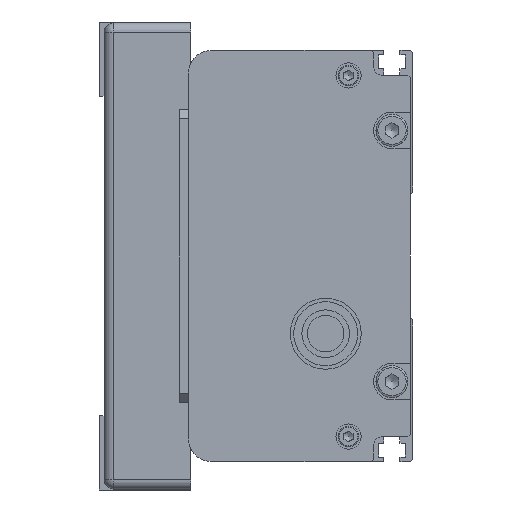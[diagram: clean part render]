
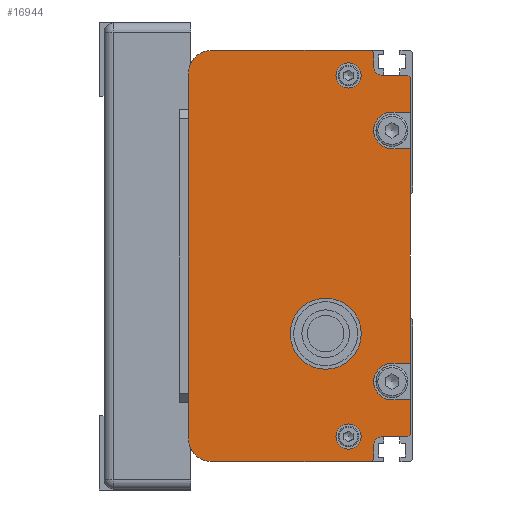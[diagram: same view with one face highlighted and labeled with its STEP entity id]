
A CAD part, left-side view. The second image highlights one B-rep face of the part: STEP entity #16944.
In plain terms, the highlighted planar face has unit normal (-1, 0, 0) as drawn and (0, 0, -1) by its records, which use the part's own axes.
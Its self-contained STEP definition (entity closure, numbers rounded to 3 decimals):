
#1076=FACE_BOUND('',#2476,.T.);
#1077=FACE_BOUND('',#2477,.T.);
#1078=FACE_BOUND('',#2478,.T.);
#1406=FACE_OUTER_BOUND('',#2475,.T.);
#2475=EDGE_LOOP('',(#11767,#11768,#11769,#11770,#11771,#11772,#11773,#11774,
#11775,#11776,#11777,#11778,#11779,#11780,#11781,#11782,#11783,#11784,#11785,
#11786,#11787,#11788,#11789,#11790));
#2476=EDGE_LOOP('',(#11791));
#2477=EDGE_LOOP('',(#11792));
#2478=EDGE_LOOP('',(#11793));
#3765=LINE('',#24545,#5263);
#3791=LINE('',#24612,#5289);
#3793=LINE('',#24617,#5291);
#3794=LINE('',#24619,#5292);
#3795=LINE('',#24622,#5293);
#3796=LINE('',#24624,#5294);
#3797=LINE('',#24626,#5295);
#3798=LINE('',#24630,#5296);
#3799=LINE('',#24632,#5297);
#3800=LINE('',#24634,#5298);
#3801=LINE('',#24638,#5299);
#3802=LINE('',#24640,#5300);
#3803=LINE('',#24642,#5301);
#3804=LINE('',#24644,#5302);
#3805=LINE('',#24648,#5303);
#3806=LINE('',#24650,#5304);
#3807=LINE('',#24651,#5305);
#3808=LINE('',#24652,#5306);
#5263=VECTOR('',#19938,80.);
#5289=VECTOR('',#19990,0.707);
#5291=VECTOR('',#19994,0.707);
#5292=VECTOR('',#19995,3.);
#5293=VECTOR('',#19998,5.5);
#5294=VECTOR('',#19999,7.5);
#5295=VECTOR('',#20000,4.);
#5296=VECTOR('',#20003,4.);
#5297=VECTOR('',#20004,47.);
#5298=VECTOR('',#20005,4.);
#5299=VECTOR('',#20008,4.);
#5300=VECTOR('',#20009,7.5);
#5301=VECTOR('',#20010,0.707);
#5302=VECTOR('',#20011,5.5);
#5303=VECTOR('',#20014,3.);
#5304=VECTOR('',#20015,0.707);
#5305=VECTOR('',#20016,35.);
#5306=VECTOR('',#20017,35.);
#6648=CIRCLE('',#18096,5.);
#6651=CIRCLE('',#18103,5.);
#6653=CIRCLE('',#18109,2.);
#6654=CIRCLE('',#18110,4.);
#6655=CIRCLE('',#18111,4.);
#6656=CIRCLE('',#18112,2.);
#6657=CIRCLE('',#18113,7.769);
#6658=CIRCLE('',#18114,2.75);
#6659=CIRCLE('',#18115,2.75);
#7251=VERTEX_POINT('',#24542);
#7252=VERTEX_POINT('',#24544);
#7253=VERTEX_POINT('',#24548);
#7256=VERTEX_POINT('',#24559);
#7279=VERTEX_POINT('',#24609);
#7280=VERTEX_POINT('',#24611);
#7281=VERTEX_POINT('',#24615);
#7282=VERTEX_POINT('',#24616);
#7283=VERTEX_POINT('',#24618);
#7284=VERTEX_POINT('',#24620);
#7285=VERTEX_POINT('',#24623);
#7286=VERTEX_POINT('',#24625);
#7287=VERTEX_POINT('',#24627);
#7288=VERTEX_POINT('',#24629);
#7289=VERTEX_POINT('',#24631);
#7290=VERTEX_POINT('',#24633);
#7291=VERTEX_POINT('',#24635);
#7292=VERTEX_POINT('',#24637);
#7293=VERTEX_POINT('',#24639);
#7294=VERTEX_POINT('',#24641);
#7295=VERTEX_POINT('',#24643);
#7296=VERTEX_POINT('',#24645);
#7297=VERTEX_POINT('',#24647);
#7298=VERTEX_POINT('',#24649);
#7299=VERTEX_POINT('',#24653);
#7300=VERTEX_POINT('',#24655);
#7301=VERTEX_POINT('',#24657);
#9033=EDGE_CURVE('',#7251,#7252,#3765,.T.);
#9035=EDGE_CURVE('',#7252,#7253,#6648,.T.);
#9040=EDGE_CURVE('',#7256,#7251,#6651,.T.);
#9064=EDGE_CURVE('',#7279,#7280,#3791,.T.);
#9066=EDGE_CURVE('',#7281,#7282,#3793,.T.);
#9067=EDGE_CURVE('',#7281,#7283,#3794,.T.);
#9068=EDGE_CURVE('',#7283,#7284,#6653,.T.);
#9069=EDGE_CURVE('',#7284,#7280,#3795,.T.);
#9070=EDGE_CURVE('',#7285,#7279,#3796,.T.);
#9071=EDGE_CURVE('',#7285,#7286,#3797,.T.);
#9072=EDGE_CURVE('',#7286,#7287,#6654,.T.);
#9073=EDGE_CURVE('',#7287,#7288,#3798,.T.);
#9074=EDGE_CURVE('',#7289,#7288,#3799,.T.);
#9075=EDGE_CURVE('',#7289,#7290,#3800,.T.);
#9076=EDGE_CURVE('',#7290,#7291,#6655,.T.);
#9077=EDGE_CURVE('',#7291,#7292,#3801,.T.);
#9078=EDGE_CURVE('',#7293,#7292,#3802,.T.);
#9079=EDGE_CURVE('',#7294,#7293,#3803,.T.);
#9080=EDGE_CURVE('',#7294,#7295,#3804,.T.);
#9081=EDGE_CURVE('',#7295,#7296,#6656,.T.);
#9082=EDGE_CURVE('',#7296,#7297,#3805,.T.);
#9083=EDGE_CURVE('',#7298,#7297,#3806,.T.);
#9084=EDGE_CURVE('',#7253,#7298,#3807,.T.);
#9085=EDGE_CURVE('',#7282,#7256,#3808,.T.);
#9086=EDGE_CURVE('',#7299,#7299,#6657,.T.);
#9087=EDGE_CURVE('',#7300,#7300,#6658,.T.);
#9088=EDGE_CURVE('',#7301,#7301,#6659,.T.);
#11767=ORIENTED_EDGE('',*,*,#9066,.F.);
#11768=ORIENTED_EDGE('',*,*,#9067,.T.);
#11769=ORIENTED_EDGE('',*,*,#9068,.T.);
#11770=ORIENTED_EDGE('',*,*,#9069,.T.);
#11771=ORIENTED_EDGE('',*,*,#9064,.F.);
#11772=ORIENTED_EDGE('',*,*,#9070,.F.);
#11773=ORIENTED_EDGE('',*,*,#9071,.T.);
#11774=ORIENTED_EDGE('',*,*,#9072,.T.);
#11775=ORIENTED_EDGE('',*,*,#9073,.T.);
#11776=ORIENTED_EDGE('',*,*,#9074,.F.);
#11777=ORIENTED_EDGE('',*,*,#9075,.T.);
#11778=ORIENTED_EDGE('',*,*,#9076,.T.);
#11779=ORIENTED_EDGE('',*,*,#9077,.T.);
#11780=ORIENTED_EDGE('',*,*,#9078,.F.);
#11781=ORIENTED_EDGE('',*,*,#9079,.F.);
#11782=ORIENTED_EDGE('',*,*,#9080,.T.);
#11783=ORIENTED_EDGE('',*,*,#9081,.T.);
#11784=ORIENTED_EDGE('',*,*,#9082,.T.);
#11785=ORIENTED_EDGE('',*,*,#9083,.F.);
#11786=ORIENTED_EDGE('',*,*,#9084,.F.);
#11787=ORIENTED_EDGE('',*,*,#9035,.F.);
#11788=ORIENTED_EDGE('',*,*,#9033,.F.);
#11789=ORIENTED_EDGE('',*,*,#9040,.F.);
#11790=ORIENTED_EDGE('',*,*,#9085,.F.);
#11791=ORIENTED_EDGE('',*,*,#9086,.T.);
#11792=ORIENTED_EDGE('',*,*,#9087,.T.);
#11793=ORIENTED_EDGE('',*,*,#9088,.T.);
#16334=PLANE('',#18108);
#16944=ADVANCED_FACE('',(#1406,#1076,#1077,#1078),#16334,.F.);
#18096=AXIS2_PLACEMENT_3D('',#24549,#19942,#19943);
#18103=AXIS2_PLACEMENT_3D('',#24561,#19958,#19959);
#18108=AXIS2_PLACEMENT_3D('',#24614,#19992,#19993);
#18109=AXIS2_PLACEMENT_3D('',#24621,#19996,#19997);
#18110=AXIS2_PLACEMENT_3D('',#24628,#20001,#20002);
#18111=AXIS2_PLACEMENT_3D('',#24636,#20006,#20007);
#18112=AXIS2_PLACEMENT_3D('',#24646,#20012,#20013);
#18113=AXIS2_PLACEMENT_3D('',#24654,#20018,#20019);
#18114=AXIS2_PLACEMENT_3D('',#24656,#20020,#20021);
#18115=AXIS2_PLACEMENT_3D('',#24658,#20022,#20023);
#19938=DIRECTION('',(-1.,0.,0.));
#19942=DIRECTION('center_axis',(0.,0.,1.));
#19943=DIRECTION('ref_axis',(0.,1.,0.));
#19958=DIRECTION('center_axis',(0.,0.,1.));
#19959=DIRECTION('ref_axis',(1.,0.,0.));
#19990=DIRECTION('',(0.707,0.707,0.));
#19992=DIRECTION('center_axis',(0.,0.,1.));
#19993=DIRECTION('ref_axis',(1.,0.,0.));
#19994=DIRECTION('',(0.707,0.707,0.));
#19995=DIRECTION('',(-1.,0.,0.));
#19996=DIRECTION('center_axis',(0.,0.,1.));
#19997=DIRECTION('ref_axis',(0.,1.,0.));
#19998=DIRECTION('',(0.,-1.,0.));
#19999=DIRECTION('',(1.,0.,0.));
#20000=DIRECTION('',(0.,1.,0.));
#20001=DIRECTION('center_axis',(0.,0.,1.));
#20002=DIRECTION('ref_axis',(-1.,0.,0.));
#20003=DIRECTION('',(0.,-1.,0.));
#20004=DIRECTION('',(1.,0.,0.));
#20005=DIRECTION('',(0.,1.,0.));
#20006=DIRECTION('center_axis',(0.,0.,1.));
#20007=DIRECTION('ref_axis',(-1.,0.,0.));
#20008=DIRECTION('',(0.,-1.,0.));
#20009=DIRECTION('',(1.,0.,0.));
#20010=DIRECTION('',(0.707,-0.707,0.));
#20011=DIRECTION('',(0.,1.,0.));
#20012=DIRECTION('center_axis',(0.,0.,1.));
#20013=DIRECTION('ref_axis',(-1.,0.,0.));
#20014=DIRECTION('',(-1.,0.,0.));
#20015=DIRECTION('',(0.707,-0.707,0.));
#20016=DIRECTION('',(0.,-1.,0.));
#20017=DIRECTION('',(0.,1.,0.));
#20018=DIRECTION('center_axis',(0.,0.,1.));
#20019=DIRECTION('ref_axis',(0.766,-0.643,0.));
#20020=DIRECTION('center_axis',(0.,0.,1.));
#20021=DIRECTION('ref_axis',(-1.,0.,0.));
#20022=DIRECTION('center_axis',(0.,0.,1.));
#20023=DIRECTION('ref_axis',(-1.,0.,0.));
#24542=CARTESIAN_POINT('',(37.988,51.846,-397.249));
#24544=CARTESIAN_POINT('',(-42.012,51.846,-397.249));
#24545=CARTESIAN_POINT('',(37.988,51.846,-397.249));
#24548=CARTESIAN_POINT('',(-47.012,46.846,-397.249));
#24549=CARTESIAN_POINT('Origin',(-42.012,46.846,-397.249));
#24559=CARTESIAN_POINT('',(42.988,46.846,-397.249));
#24561=CARTESIAN_POINT('Origin',(37.988,46.846,-397.249));
#24609=CARTESIAN_POINT('',(36.988,3.346,-397.249));
#24611=CARTESIAN_POINT('',(37.488,3.846,-397.249));
#24612=CARTESIAN_POINT('',(36.988,3.346,-397.249));
#24614=CARTESIAN_POINT('Origin',(-2.012,27.249,-397.249));
#24615=CARTESIAN_POINT('',(42.488,11.346,-397.249));
#24616=CARTESIAN_POINT('',(42.988,11.846,-397.249));
#24617=CARTESIAN_POINT('',(42.488,11.346,-397.249));
#24618=CARTESIAN_POINT('',(39.488,11.346,-397.249));
#24619=CARTESIAN_POINT('',(42.488,11.346,-397.249));
#24620=CARTESIAN_POINT('',(37.488,9.346,-397.249));
#24621=CARTESIAN_POINT('Origin',(39.488,9.346,-397.249));
#24622=CARTESIAN_POINT('',(37.488,9.346,-397.249));
#24623=CARTESIAN_POINT('',(29.488,3.346,-397.249));
#24624=CARTESIAN_POINT('',(29.488,3.346,-397.249));
#24625=CARTESIAN_POINT('',(29.488,7.346,-397.249));
#24626=CARTESIAN_POINT('',(29.488,3.346,-397.249));
#24627=CARTESIAN_POINT('',(21.488,7.346,-397.249));
#24628=CARTESIAN_POINT('Origin',(25.488,7.346,-397.249));
#24629=CARTESIAN_POINT('',(21.488,3.346,-397.249));
#24630=CARTESIAN_POINT('',(21.488,7.346,-397.249));
#24631=CARTESIAN_POINT('',(-25.512,3.346,-397.249));
#24632=CARTESIAN_POINT('',(-25.512,3.346,-397.249));
#24633=CARTESIAN_POINT('',(-25.512,7.346,-397.249));
#24634=CARTESIAN_POINT('',(-25.512,3.346,-397.249));
#24635=CARTESIAN_POINT('',(-33.512,7.346,-397.249));
#24636=CARTESIAN_POINT('Origin',(-29.512,7.346,-397.249));
#24637=CARTESIAN_POINT('',(-33.512,3.346,-397.249));
#24638=CARTESIAN_POINT('',(-33.512,7.346,-397.249));
#24639=CARTESIAN_POINT('',(-41.012,3.346,-397.249));
#24640=CARTESIAN_POINT('',(-41.012,3.346,-397.249));
#24641=CARTESIAN_POINT('',(-41.512,3.846,-397.249));
#24642=CARTESIAN_POINT('',(-41.512,3.846,-397.249));
#24643=CARTESIAN_POINT('',(-41.512,9.346,-397.249));
#24644=CARTESIAN_POINT('',(-41.512,3.846,-397.249));
#24645=CARTESIAN_POINT('',(-43.512,11.346,-397.249));
#24646=CARTESIAN_POINT('Origin',(-43.512,9.346,-397.249));
#24647=CARTESIAN_POINT('',(-46.512,11.346,-397.249));
#24648=CARTESIAN_POINT('',(-43.512,11.346,-397.249));
#24649=CARTESIAN_POINT('',(-47.012,11.846,-397.249));
#24650=CARTESIAN_POINT('',(-47.012,11.846,-397.249));
#24651=CARTESIAN_POINT('',(-47.012,46.846,-397.249));
#24652=CARTESIAN_POINT('',(42.988,11.846,-397.249));
#24653=CARTESIAN_POINT('',(20.939,16.853,-397.249));
#24654=CARTESIAN_POINT('Origin',(14.988,21.846,-397.249));
#24655=CARTESIAN_POINT('',(34.738,16.846,-397.249));
#24656=CARTESIAN_POINT('Origin',(37.488,16.846,-397.249));
#24657=CARTESIAN_POINT('',(-44.262,16.846,-397.249));
#24658=CARTESIAN_POINT('Origin',(-41.512,16.846,-397.249));
